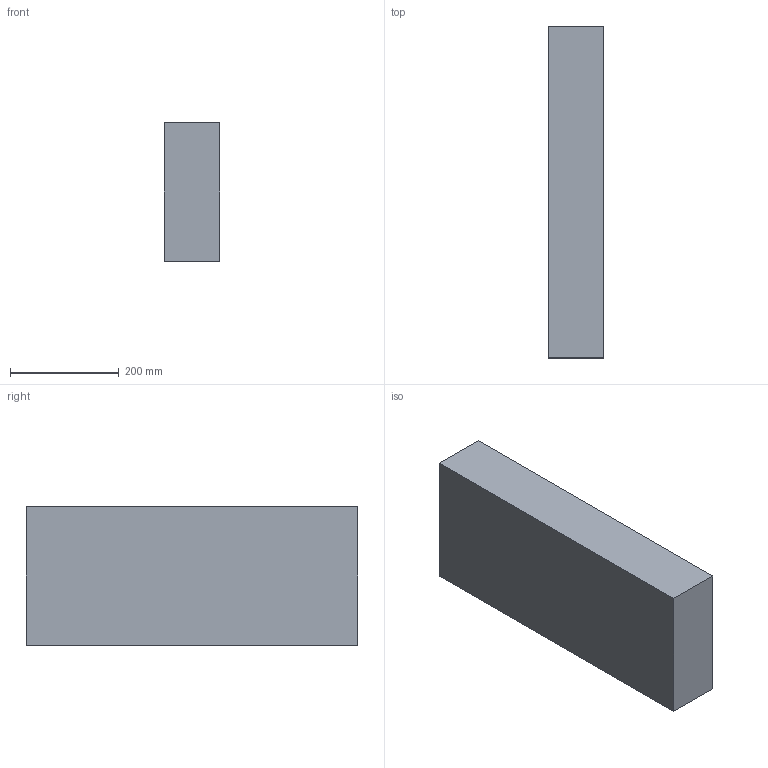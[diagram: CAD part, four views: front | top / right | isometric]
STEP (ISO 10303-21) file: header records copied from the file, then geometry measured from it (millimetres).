
FILE_DESCRIPTION(/* description */ (''),/* implementation_level */ '2;1');
FILE_NAME(/* name */ '4x10x24',/* time_stamp */ '2024-09-20T11:45:23-05:00',/* author */ (''),/* organization */ (''),/* preprocessor_version */ 'ST-DEVELOPER v19.2',/* originating_system */ 'Rhino 8.5',/* authorisation */ '');
FILE_SCHEMA (('CONFIG_CONTROL_DESIGN'));
Length unit declared in the file: inch
Products named in the file (1): Document
Bounding box: 101.6 x 609.6 x 254 mm (x, y, z)
Volume: 15731581.4 mm3; surface area: 485160.3 mm2
Topology: 1 solids, 1 shells, 6 faces, 12 edges, 8 vertices
Faces by surface type: plane 6
Entity records: 226 total; most frequent: CARTESIAN_POINT 40, ORIENTED_EDGE 24, EDGE_CURVE 12, B_SPLINE_CURVE_WITH_KNOTS 12, DIRECTION 10, VERTEX_POINT 8, AXIS2_PLACEMENT_3D 8, ORGANIZATION 7
